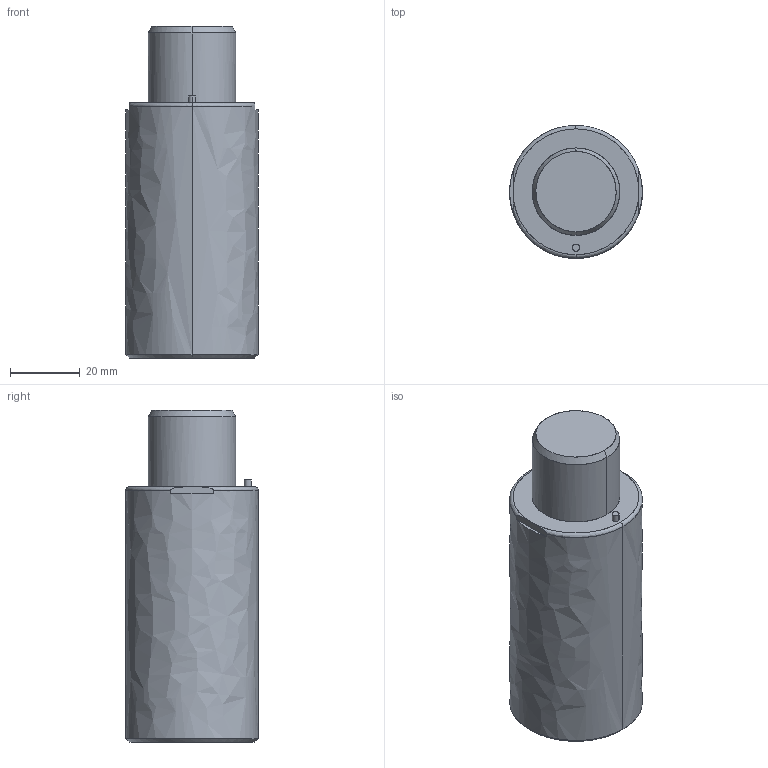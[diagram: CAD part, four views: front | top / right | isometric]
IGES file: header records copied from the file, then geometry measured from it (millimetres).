
Global section: file name: E:\UnigraphicsGraphicData\MISUMI_PRESS-PARTS\IGES\3d_gsx38-20_03976_r00.igs; native system: NX V5.0; preprocessor: UGS NX IGES V5.0; author: MISUMI; date: 20110105.160824; units: millimetre
Bounding box: 38 x 38 x 95 mm (x, y, z)
Surface area: 13831.9 mm2 (no closed solid volume)
Topology: 0 solids, 0 shells, 59 faces, 414 edges, 406 vertices
Faces by surface type: bspline 59
